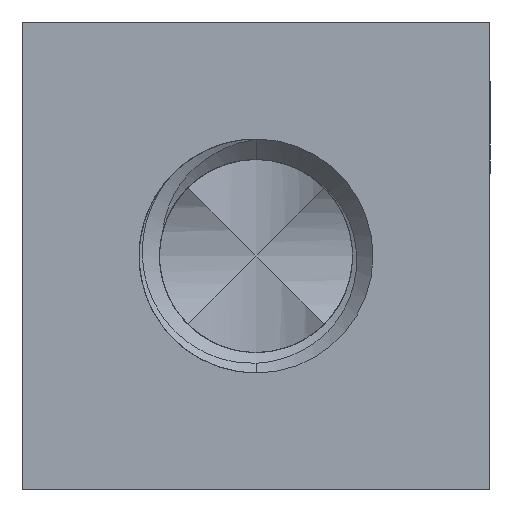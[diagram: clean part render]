
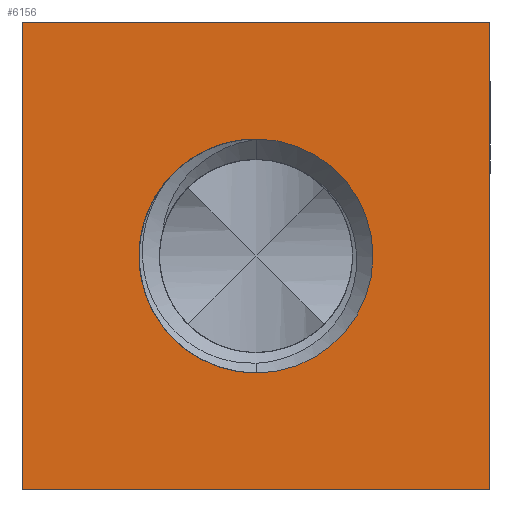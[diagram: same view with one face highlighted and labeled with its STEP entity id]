
A CAD part, front view. The second image highlights one B-rep face of the part: STEP entity #6156.
In plain terms, the highlighted planar face has unit normal (0, -1, 0).
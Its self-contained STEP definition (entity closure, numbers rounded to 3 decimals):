
#214 = CARTESIAN_POINT ( 'NONE',  ( 0., -4., 4. ) ) ;
#324 = CARTESIAN_POINT ( 'NONE',  ( 0., -4., 0. ) ) ;
#2907 = DIRECTION ( 'NONE',  ( 0., 1., 0. ) ) ;
#4061 = AXIS2_PLACEMENT_3D ( 'NONE', #324, #24952, #14626 ) ;
#4156 = VERTEX_POINT ( 'NONE', #33844 ) ;
#4289 = CARTESIAN_POINT ( 'NONE',  ( 0., -4., -2. ) ) ;
#5589 = FACE_OUTER_BOUND ( 'NONE', #43560, .T. ) ;
#5615 = ORIENTED_EDGE ( 'NONE', *, *, #35433, .T. ) ;
#5823 = EDGE_CURVE ( 'NONE', #29879, #4156, #12186, .T. ) ;
#6156 = ADVANCED_FACE ( 'NONE', ( #40287, #5589 ), #35707, .F. ) ;
#6429 = DIRECTION ( 'NONE',  ( 0., 0., 1. ) ) ;
#6871 = DIRECTION ( 'NONE',  ( 0., 1., 0. ) ) ;
#7291 = CARTESIAN_POINT ( 'NONE',  ( -4., -4., -4. ) ) ;
#8409 = VERTEX_POINT ( 'NONE', #11813 ) ;
#9693 = CARTESIAN_POINT ( 'NONE',  ( 0., -4., 0. ) ) ;
#10013 = DIRECTION ( 'NONE',  ( 0., 0., 1. ) ) ;
#10744 = LINE ( 'NONE', #214, #14049 ) ;
#11182 = CARTESIAN_POINT ( 'NONE',  ( -4., -4., 0. ) ) ;
#11342 = DIRECTION ( 'NONE',  ( 0., 0., 1. ) ) ;
#11813 = CARTESIAN_POINT ( 'NONE',  ( 4., -4., -4. ) ) ;
#11904 = ORIENTED_EDGE ( 'NONE', *, *, #18869, .F. ) ;
#12186 = CIRCLE ( 'NONE', #20026, 2. ) ;
#13480 = VECTOR ( 'NONE', #11342, 1000. ) ;
#14049 = VECTOR ( 'NONE', #32510, 1000. ) ;
#14070 = ORIENTED_EDGE ( 'NONE', *, *, #23048, .T. ) ;
#14626 = DIRECTION ( 'NONE',  ( 0., 0., 1. ) ) ;
#14636 = ORIENTED_EDGE ( 'NONE', *, *, #15921, .T. ) ;
#15921 = EDGE_CURVE ( 'NONE', #40954, #8409, #28414, .T. ) ;
#16935 = DIRECTION ( 'NONE',  ( 0., 1., 0. ) ) ;
#18869 = EDGE_CURVE ( 'NONE', #22189, #32445, #10744, .T. ) ;
#19073 = VECTOR ( 'NONE', #35999, 1000. ) ;
#20020 = EDGE_CURVE ( 'NONE', #40954, #22189, #41578, .T. ) ;
#20026 = AXIS2_PLACEMENT_3D ( 'NONE', #27977, #6871, #31491 ) ;
#21315 = AXIS2_PLACEMENT_3D ( 'NONE', #24040, #2907, #10013 ) ;
#21750 = ORIENTED_EDGE ( 'NONE', *, *, #20020, .F. ) ;
#22080 = VECTOR ( 'NONE', #22630, 1000. ) ;
#22189 = VERTEX_POINT ( 'NONE', #43680 ) ;
#22298 = EDGE_LOOP ( 'NONE', ( #22719, #5615, #36934 ) ) ;
#22630 = DIRECTION ( 'NONE',  ( 0., 0., 1. ) ) ;
#22719 = ORIENTED_EDGE ( 'NONE', *, *, #25924, .T. ) ;
#23048 = EDGE_CURVE ( 'NONE', #8409, #32445, #36931, .T. ) ;
#24040 = CARTESIAN_POINT ( 'NONE',  ( 0., -4., 0. ) ) ;
#24671 = CIRCLE ( 'NONE', #21315, 2. ) ;
#24952 = DIRECTION ( 'NONE',  ( 0., 1., 0. ) ) ;
#25924 = EDGE_CURVE ( 'NONE', #4156, #35745, #34146, .T. ) ;
#26290 = CARTESIAN_POINT ( 'NONE',  ( 4., -4., 0. ) ) ;
#27977 = CARTESIAN_POINT ( 'NONE',  ( 0., -4., 0. ) ) ;
#28414 = LINE ( 'NONE', #42944, #19073 ) ;
#29686 = AXIS2_PLACEMENT_3D ( 'NONE', #9693, #16935, #6429 ) ;
#29879 = VERTEX_POINT ( 'NONE', #44708 ) ;
#31491 = DIRECTION ( 'NONE',  ( 0., 0., 1. ) ) ;
#32445 = VERTEX_POINT ( 'NONE', #40435 ) ;
#32510 = DIRECTION ( 'NONE',  ( 1., 0., 0. ) ) ;
#33844 = CARTESIAN_POINT ( 'NONE',  ( 0.031, -4., 2. ) ) ;
#34146 = CIRCLE ( 'NONE', #29686, 2. ) ;
#35433 = EDGE_CURVE ( 'NONE', #35745, #29879, #24671, .T. ) ;
#35707 = PLANE ( 'NONE',  #4061 ) ;
#35745 = VERTEX_POINT ( 'NONE', #4289 ) ;
#35999 = DIRECTION ( 'NONE',  ( 1., 0., 0. ) ) ;
#36931 = LINE ( 'NONE', #26290, #22080 ) ;
#36934 = ORIENTED_EDGE ( 'NONE', *, *, #5823, .T. ) ;
#40287 = FACE_BOUND ( 'NONE', #22298, .T. ) ;
#40435 = CARTESIAN_POINT ( 'NONE',  ( 4., -4., 4. ) ) ;
#40954 = VERTEX_POINT ( 'NONE', #7291 ) ;
#41578 = LINE ( 'NONE', #11182, #13480 ) ;
#42944 = CARTESIAN_POINT ( 'NONE',  ( 0., -4., -4. ) ) ;
#43560 = EDGE_LOOP ( 'NONE', ( #11904, #21750, #14636, #14070 ) ) ;
#43680 = CARTESIAN_POINT ( 'NONE',  ( -4., -4., 4. ) ) ;
#44708 = CARTESIAN_POINT ( 'NONE',  ( -1.395, -4., 1.433 ) ) ;
